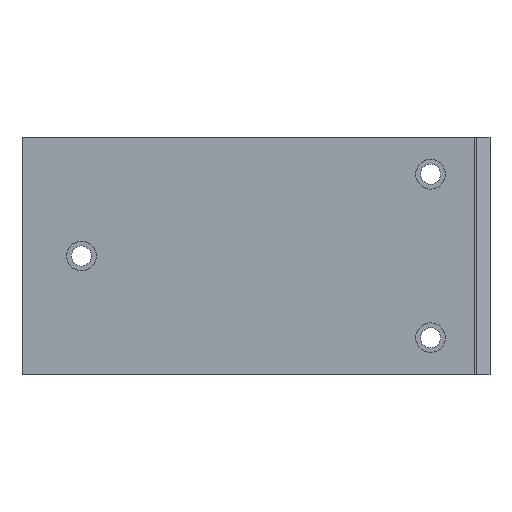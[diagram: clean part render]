
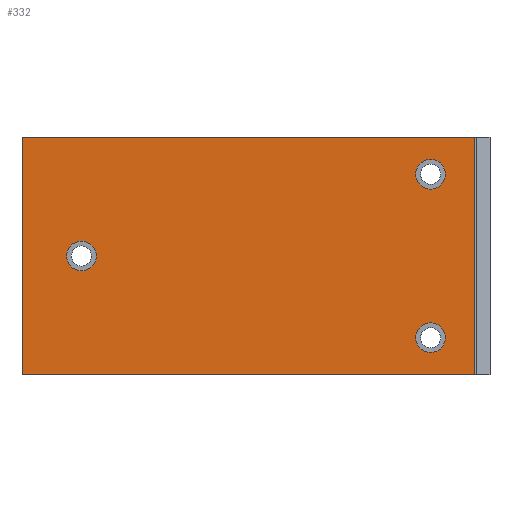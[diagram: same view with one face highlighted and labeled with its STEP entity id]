
A CAD part, top view. The second image highlights one B-rep face of the part: STEP entity #332.
In plain terms, the highlighted planar face has unit normal (0, 0, 1).
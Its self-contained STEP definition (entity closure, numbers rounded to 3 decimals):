
#9 = CARTESIAN_POINT ( 'NONE',  ( 30., 80., 20. ) ) ;
#13 = CARTESIAN_POINT ( 'NONE',  ( 50., 80., 20. ) ) ;
#16 = EDGE_CURVE ( 'NONE', #724, #660, #134, .T. ) ;
#21 = CARTESIAN_POINT ( 'NONE',  ( 0., 160., 20. ) ) ;
#40 = EDGE_LOOP ( 'NONE', ( #189, #570 ) ) ;
#41 = DIRECTION ( 'NONE',  ( 0., 0., 1. ) ) ;
#50 = EDGE_CURVE ( 'NONE', #432, #685, #376, .T. ) ;
#55 = CIRCLE ( 'NONE', #688, 10. ) ;
#67 = CARTESIAN_POINT ( 'NONE',  ( 0., 80., 20. ) ) ;
#68 = DIRECTION ( 'NONE',  ( 0., 0., 1. ) ) ;
#70 = CARTESIAN_POINT ( 'NONE',  ( 0., 0., 20. ) ) ;
#75 = EDGE_LOOP ( 'NONE', ( #567, #418 ) ) ;
#79 = DIRECTION ( 'NONE',  ( 0., 0., 1. ) ) ;
#84 = CARTESIAN_POINT ( 'NONE',  ( 40., 80., 20. ) ) ;
#88 = VERTEX_POINT ( 'NONE', #105 ) ;
#89 = LINE ( 'NONE', #264, #526 ) ;
#93 = EDGE_CURVE ( 'NONE', #660, #724, #698, .T. ) ;
#99 = DIRECTION ( 'NONE',  ( 1., 0., 0. ) ) ;
#101 = CIRCLE ( 'NONE', #451, 10. ) ;
#104 = EDGE_CURVE ( 'NONE', #685, #153, #198, .T. ) ;
#105 = CARTESIAN_POINT ( 'NONE',  ( 265., 25., 20. ) ) ;
#119 = ORIENTED_EDGE ( 'NONE', *, *, #16, .F. ) ;
#122 = CARTESIAN_POINT ( 'NONE',  ( 152.171, 0., 20. ) ) ;
#123 = EDGE_CURVE ( 'NONE', #432, #211, #414, .T. ) ;
#124 = CARTESIAN_POINT ( 'NONE',  ( 285., 135., 20. ) ) ;
#134 = CIRCLE ( 'NONE', #679, 10. ) ;
#136 = DIRECTION ( 'NONE',  ( 0., 0., 1. ) ) ;
#139 = DIRECTION ( 'NONE',  ( 1., 0., 0. ) ) ;
#144 = CARTESIAN_POINT ( 'NONE',  ( 275., 135., 20. ) ) ;
#150 = DIRECTION ( 'NONE',  ( 1., 0., 0. ) ) ;
#153 = VERTEX_POINT ( 'NONE', #355 ) ;
#154 = EDGE_CURVE ( 'NONE', #88, #408, #240, .T. ) ;
#155 = DIRECTION ( 'NONE',  ( 1., 0., 0. ) ) ;
#159 = CARTESIAN_POINT ( 'NONE',  ( 275., 135., 20. ) ) ;
#189 = ORIENTED_EDGE ( 'NONE', *, *, #154, .F. ) ;
#198 = LINE ( 'NONE', #122, #295 ) ;
#211 = VERTEX_POINT ( 'NONE', #743 ) ;
#214 = CARTESIAN_POINT ( 'NONE',  ( 152.171, 160., 20. ) ) ;
#233 = EDGE_LOOP ( 'NONE', ( #717, #642, #278, #356 ) ) ;
#236 = VERTEX_POINT ( 'NONE', #9 ) ;
#240 = CIRCLE ( 'NONE', #562, 10. ) ;
#264 = CARTESIAN_POINT ( 'NONE',  ( 304.342, 80., 20. ) ) ;
#272 = FACE_OUTER_BOUND ( 'NONE', #233, .T. ) ;
#278 = ORIENTED_EDGE ( 'NONE', *, *, #104, .T. ) ;
#294 = AXIS2_PLACEMENT_3D ( 'NONE', #712, #655, #99 ) ;
#295 = VECTOR ( 'NONE', #761, 1000. ) ;
#297 = FACE_BOUND ( 'NONE', #40, .T. ) ;
#309 = FACE_BOUND ( 'NONE', #489, .T. ) ;
#332 = ADVANCED_FACE ( 'NONE', ( #272, #297, #309, #672 ), #598, .T. ) ;
#335 = AXIS2_PLACEMENT_3D ( 'NONE', #144, #136, #150 ) ;
#344 = EDGE_CURVE ( 'NONE', #408, #88, #506, .T. ) ;
#355 = CARTESIAN_POINT ( 'NONE',  ( 304.342, 0., 20. ) ) ;
#356 = ORIENTED_EDGE ( 'NONE', *, *, #647, .F. ) ;
#376 = LINE ( 'NONE', #67, #680 ) ;
#408 = VERTEX_POINT ( 'NONE', #740 ) ;
#414 = LINE ( 'NONE', #214, #472 ) ;
#418 = ORIENTED_EDGE ( 'NONE', *, *, #512, .F. ) ;
#426 = DIRECTION ( 'NONE',  ( 0., 0., 1. ) ) ;
#432 = VERTEX_POINT ( 'NONE', #21 ) ;
#451 = AXIS2_PLACEMENT_3D ( 'NONE', #84, #79, #500 ) ;
#457 = DIRECTION ( 'NONE',  ( 1., 0., 0. ) ) ;
#462 = EDGE_CURVE ( 'NONE', #236, #739, #101, .T. ) ;
#469 = DIRECTION ( 'NONE',  ( 1., 0., 0. ) ) ;
#472 = VECTOR ( 'NONE', #139, 1000. ) ;
#474 = CARTESIAN_POINT ( 'NONE',  ( 265., 135., 20. ) ) ;
#483 = AXIS2_PLACEMENT_3D ( 'NONE', #736, #68, #155 ) ;
#487 = CARTESIAN_POINT ( 'NONE',  ( 40., 80., 20. ) ) ;
#489 = EDGE_LOOP ( 'NONE', ( #733, #119 ) ) ;
#500 = DIRECTION ( 'NONE',  ( 1., 0., 0. ) ) ;
#506 = CIRCLE ( 'NONE', #483, 10. ) ;
#512 = EDGE_CURVE ( 'NONE', #739, #236, #55, .T. ) ;
#526 = VECTOR ( 'NONE', #663, 1000. ) ;
#562 = AXIS2_PLACEMENT_3D ( 'NONE', #749, #568, #571 ) ;
#567 = ORIENTED_EDGE ( 'NONE', *, *, #462, .F. ) ;
#568 = DIRECTION ( 'NONE',  ( 0., 0., 1. ) ) ;
#570 = ORIENTED_EDGE ( 'NONE', *, *, #344, .F. ) ;
#571 = DIRECTION ( 'NONE',  ( 1., 0., 0. ) ) ;
#598 = PLANE ( 'NONE',  #294 ) ;
#642 = ORIENTED_EDGE ( 'NONE', *, *, #50, .T. ) ;
#647 = EDGE_CURVE ( 'NONE', #211, #153, #89, .T. ) ;
#655 = DIRECTION ( 'NONE',  ( 0., 0., 1. ) ) ;
#660 = VERTEX_POINT ( 'NONE', #474 ) ;
#663 = DIRECTION ( 'NONE',  ( 0., -1., 0. ) ) ;
#672 = FACE_BOUND ( 'NONE', #75, .T. ) ;
#679 = AXIS2_PLACEMENT_3D ( 'NONE', #159, #41, #469 ) ;
#680 = VECTOR ( 'NONE', #700, 1000. ) ;
#685 = VERTEX_POINT ( 'NONE', #70 ) ;
#688 = AXIS2_PLACEMENT_3D ( 'NONE', #487, #426, #457 ) ;
#698 = CIRCLE ( 'NONE', #335, 10. ) ;
#700 = DIRECTION ( 'NONE',  ( 0., -1., 0. ) ) ;
#712 = CARTESIAN_POINT ( 'NONE',  ( 0., 160., 20. ) ) ;
#717 = ORIENTED_EDGE ( 'NONE', *, *, #123, .F. ) ;
#724 = VERTEX_POINT ( 'NONE', #124 ) ;
#733 = ORIENTED_EDGE ( 'NONE', *, *, #93, .F. ) ;
#736 = CARTESIAN_POINT ( 'NONE',  ( 275., 25., 20. ) ) ;
#739 = VERTEX_POINT ( 'NONE', #13 ) ;
#740 = CARTESIAN_POINT ( 'NONE',  ( 285., 25., 20. ) ) ;
#743 = CARTESIAN_POINT ( 'NONE',  ( 304.342, 160., 20. ) ) ;
#749 = CARTESIAN_POINT ( 'NONE',  ( 275., 25., 20. ) ) ;
#761 = DIRECTION ( 'NONE',  ( 1., 0., 0. ) ) ;
